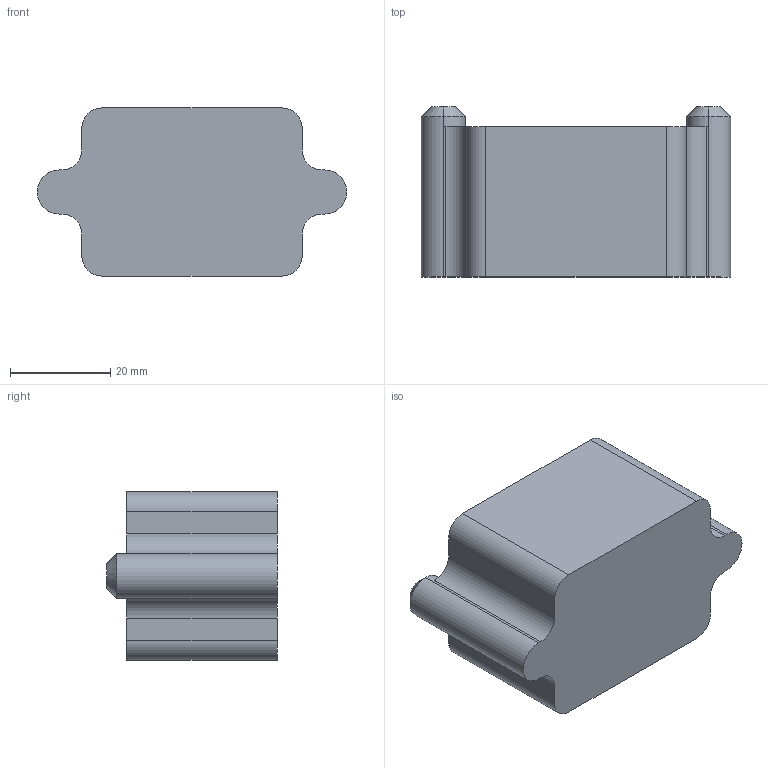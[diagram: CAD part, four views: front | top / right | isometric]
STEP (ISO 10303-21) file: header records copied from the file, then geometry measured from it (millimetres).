
FILE_DESCRIPTION (( 'STEP AP214' ), '1' );
FILE_NAME ('Example Mimimal Board Support - FM Press Block.STEP', '2025-02-20T15:53:39', ( '' ), ( '' ), 'SwSTEP 2.0', 'SolidWorks 2024', '' );
FILE_SCHEMA (( 'AUTOMOTIVE_DESIGN' ));
Length unit declared in the file: millimetre
Products named in the file (1): Example Mimimal Board Support - FM Press Block
Bounding box: 61.8 x 34 x 33.6 mm (x, y, z)
Volume: 46564.1 mm3; surface area: 13911 mm2
Topology: 1 solids, 1 shells, 327 faces, 670 edges, 444 vertices
Faces by surface type: cylinder 210, plane 113, cone 4
Entity records: 8847 total; most frequent: DIRECTION 1750, CARTESIAN_POINT 1442, ORIENTED_EDGE 1340, AXIS2_PLACEMENT_3D 752, EDGE_CURVE 670, VERTEX_POINT 444, EDGE_LOOP 426, CIRCLE 424
